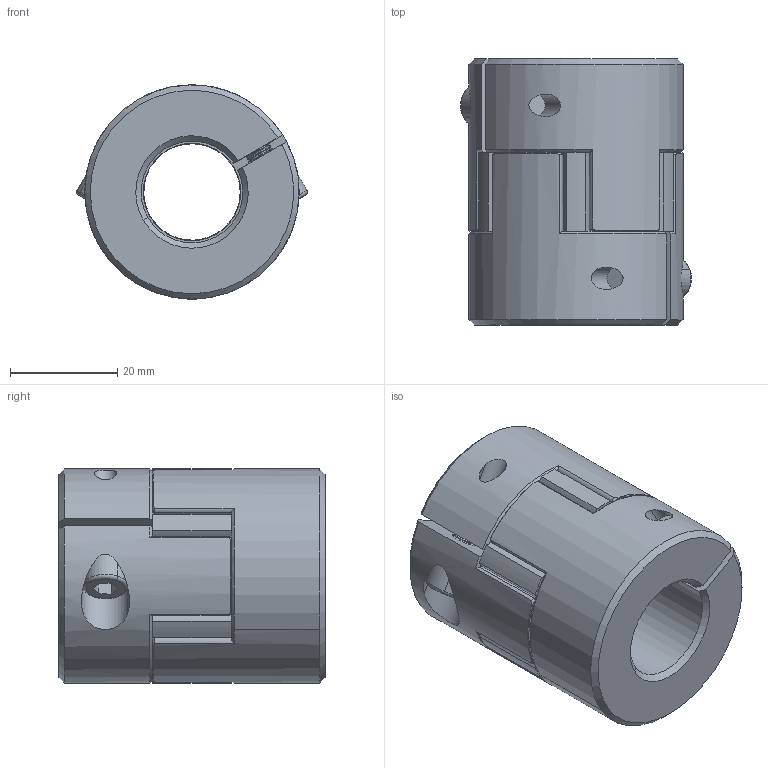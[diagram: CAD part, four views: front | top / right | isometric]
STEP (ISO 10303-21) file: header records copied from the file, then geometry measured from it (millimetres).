
FILE_DESCRIPTION (( 'STEP AP203' ), '1' );
FILE_NAME ('LF-B-D40L50-18-19.STEP', '2021-10-27T05:50:46', ( '' ), ( '' ), 'SwSTEP 2.0', 'SolidWorks 2018', '' );
FILE_SCHEMA (( 'CONFIG_CONTROL_DESIGN' ));
Length unit declared in the file: millimetre
Products named in the file (1): LF-B-D40L50-18-19
Bounding box: 43.11 x 49.7 x 40 mm (x, y, z)
Volume: 47621.4 mm3; surface area: 14570.7 mm2
Topology: 1 solids, 7 shells, 470 faces, 1113 edges, 660 vertices
Faces by surface type: cone 170, cylinder 169, plane 127, torus 4
Entity records: 13932 total; most frequent: CARTESIAN_POINT 2888, DIRECTION 2501, ORIENTED_EDGE 2218, EDGE_CURVE 1109, AXIS2_PLACEMENT_3D 1037, VERTEX_POINT 660, CIRCLE 566, EDGE_LOOP 487
